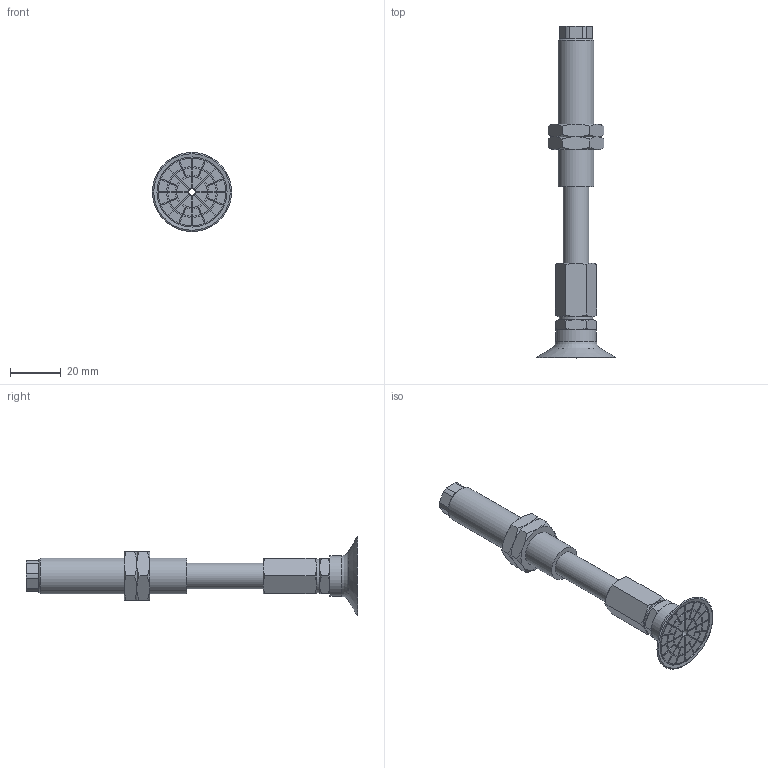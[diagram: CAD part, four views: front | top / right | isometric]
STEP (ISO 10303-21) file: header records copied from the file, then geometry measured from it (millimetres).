
FILE_DESCRIPTION(('STEP AP203'),'1');
FILE_NAME('.stp','2025-08-26T09:09:22',(' '),(' '),'Spatial InterOp 3D',' ',' ');
FILE_SCHEMA(('CONFIG_CONTROL_DESIGN'));
Length unit declared in the file: millimetre
Products named in the file (7): BNABPATS-30B-30-※; ADAPTER; NAPATS-30B-30--M; NAPATS-30B-30--F; Nut-25-S; TN-PA-30B-M6; BPAG-30B-※_3D
Assembly tree (7 placements, depth 2):
  BNABPATS-30B-30-※
    ADAPTER
    NAPATS-30B-30--M
    NAPATS-30B-30--F
    Nut-25-S  x2
    TN-PA-30B-M6
    BPAG-30B-※_3D
Bounding box: 31.04 x 130.2 x 31.04 mm (x, y, z)
Volume: 20282.1 mm3; surface area: 15250.4 mm2
Topology: 7 solids, 7 shells, 348 faces, 812 edges, 519 vertices
Faces by surface type: plane 185, cylinder 97, cone 60, torus 6
Full cylindrical faces by diameter (mm): 2.5 x1, 3 x3, 4.134 x1, 4.917 x1, 6 x3, 10 x4, 12.917 x2, 13 x1, 14 x1, 16 x1, 27.5 x1
Entity records: 9685 total; most frequent: CARTESIAN_POINT 1923, DIRECTION 1579, ORIENTED_EDGE 1444, EDGE_CURVE 722, AXIS2_PLACEMENT_3D 596, VERTEX_POINT 484, EDGE_LOOP 412, LINE 387
